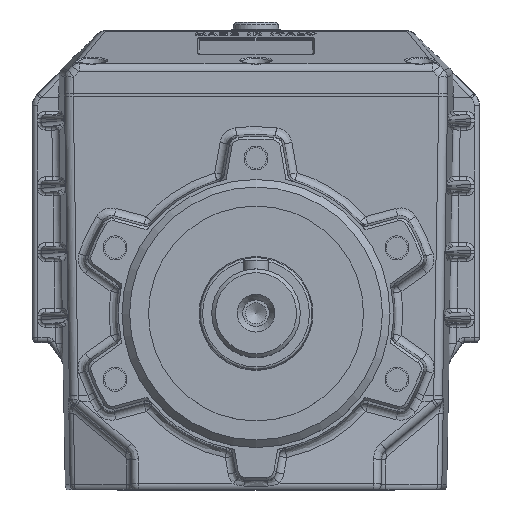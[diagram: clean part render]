
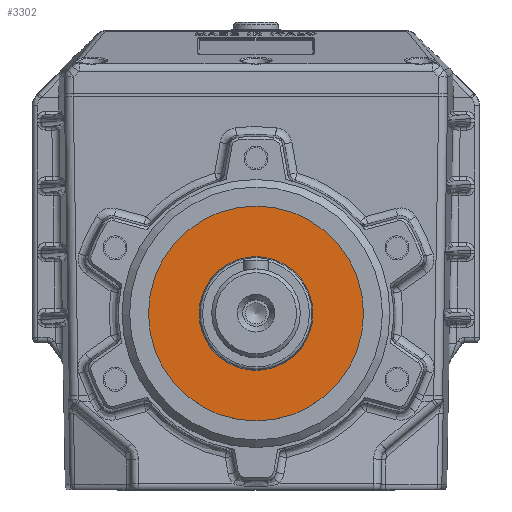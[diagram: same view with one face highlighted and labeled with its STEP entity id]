
A CAD part, top view. The second image highlights one B-rep face of the part: STEP entity #3302.
In plain terms, the highlighted planar face has unit normal (0, 0, 1).
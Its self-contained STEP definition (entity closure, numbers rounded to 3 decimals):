
#3302 = ADVANCED_FACE( '', ( #6953, #6954 ), #6955, .F. );
#6953 = FACE_BOUND( '', #17745, .T. );
#6954 = FACE_OUTER_BOUND( '', #17746, .T. );
#6955 = PLANE( '', #17747 );
#17745 = EDGE_LOOP( '', ( #27413 ) );
#17746 = EDGE_LOOP( '', ( #27414 ) );
#17747 = AXIS2_PLACEMENT_3D( '', #27415, #27416, #27417 );
#27413 = ORIENTED_EDGE( '', *, *, #30679, .T. );
#27414 = ORIENTED_EDGE( '', *, *, #32222, .F. );
#27415 = CARTESIAN_POINT( '', ( 0., 0., 12. ) );
#27416 = DIRECTION( '', ( 0., 0., -1. ) );
#27417 = DIRECTION( '', ( 1., 0., 0. ) );
#30679 = EDGE_CURVE( '', #35782, #35782, #35783, .T. );
#32222 = EDGE_CURVE( '', #37720, #37720, #37721, .T. );
#35782 = VERTEX_POINT( '', #46716 );
#35783 = CIRCLE( '', #46717, 22.5 );
#37720 = VERTEX_POINT( '', #51423 );
#37721 = CIRCLE( '', #51424, 42.5 );
#46716 = CARTESIAN_POINT( '', ( 0., 22.5, 12. ) );
#46717 = AXIS2_PLACEMENT_3D( '', #53748, #53749, #53750 );
#51423 = CARTESIAN_POINT( '', ( 0., 42.5, 12. ) );
#51424 = AXIS2_PLACEMENT_3D( '', #54952, #54953, #54954 );
#53748 = CARTESIAN_POINT( '', ( 0., 0., 12. ) );
#53749 = DIRECTION( '', ( 0., 0., -1. ) );
#53750 = DIRECTION( '', ( 0., 1., 0. ) );
#54952 = CARTESIAN_POINT( '', ( 0., 0., 12. ) );
#54953 = DIRECTION( '', ( 0., 0., -1. ) );
#54954 = DIRECTION( '', ( 0., 1., 0. ) );
